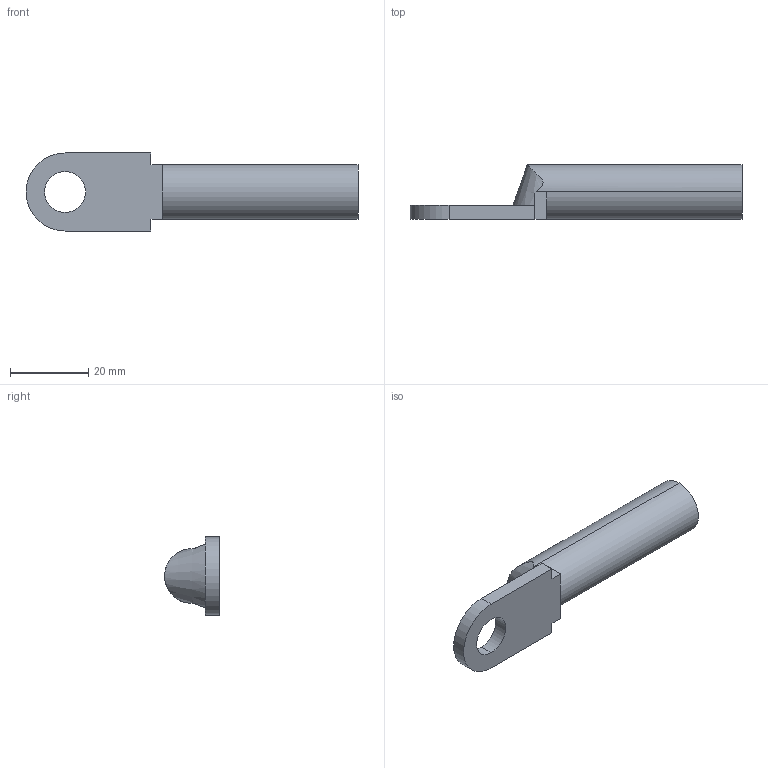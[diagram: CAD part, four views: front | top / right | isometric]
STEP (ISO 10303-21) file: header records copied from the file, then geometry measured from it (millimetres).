
FILE_DESCRIPTION (( 'STEP AP214' ), '1' );
FILE_NAME ('DL-35-10.STEP', '2020-04-24T12:20:05', ( '' ), ( '' ), 'SwSTEP 2.0', 'SolidWorks 2018', '' );
FILE_SCHEMA (( 'AUTOMOTIVE_DESIGN' ));
Length unit declared in the file: millimetre
Products named in the file (1): DL-35-10
Bounding box: 85 x 14 x 20 mm (x, y, z)
Volume: 7589.3 mm3; surface area: 5405.2 mm2
Topology: 1 solids, 1 shells, 20 faces, 48 edges, 31 vertices
Faces by surface type: plane 12, cylinder 7, cone 1
Entity records: 688 total; most frequent: CARTESIAN_POINT 177, DIRECTION 100, ORIENTED_EDGE 96, EDGE_CURVE 48, AXIS2_PLACEMENT_3D 36, VERTEX_POINT 31, VECTOR 28, LINE 28
